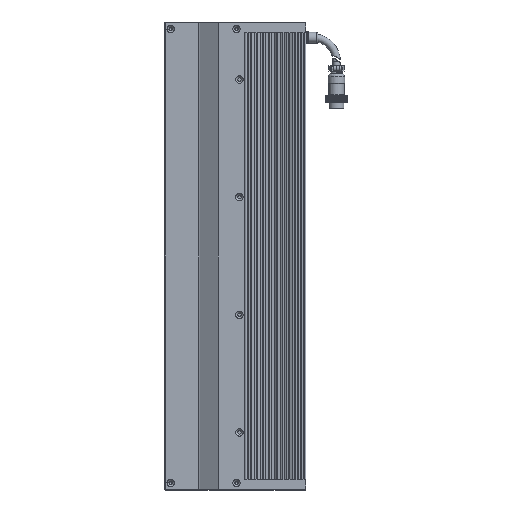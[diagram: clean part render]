
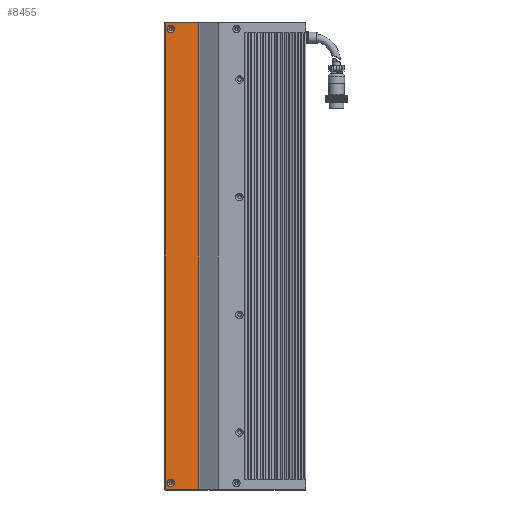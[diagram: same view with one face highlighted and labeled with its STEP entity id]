
A CAD part, left-side view. The second image highlights one B-rep face of the part: STEP entity #8455.
In plain terms, the highlighted planar face has unit normal (-1, 0, 0).
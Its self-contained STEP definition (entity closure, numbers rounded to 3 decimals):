
#137 = CARTESIAN_POINT ( 'NONE',  ( -15.462, -6.987, 120. ) ) ;
#3875 = LINE ( 'NONE', #50298, #115102 ) ;
#4369 = FACE_OUTER_BOUND ( 'NONE', #118161, .T. ) ;
#8295 = VERTEX_POINT ( 'NONE', #48006 ) ;
#8455 = ADVANCED_FACE ( 'NONE', ( #43983, #120213, #4369 ), #99480, .F. ) ;
#9952 = LINE ( 'NONE', #75915, #73999 ) ;
#12774 = ORIENTED_EDGE ( 'NONE', *, *, #44619, .F. ) ;
#12992 = DIRECTION ( 'NONE',  ( 1., 0., 0. ) ) ;
#16645 = EDGE_CURVE ( 'NONE', #105929, #105929, #23523, .T. ) ;
#21371 = CARTESIAN_POINT ( 'NONE',  ( -15.462, 13.789, 511.5 ) ) ;
#22357 = ORIENTED_EDGE ( 'NONE', *, *, #58789, .F. ) ;
#23523 = CIRCLE ( 'NONE', #69515, 3.15 ) ;
#25300 = LINE ( 'NONE', #49025, #80167 ) ;
#26943 = EDGE_LOOP ( 'NONE', ( #74138 ) ) ;
#31786 = DIRECTION ( 'NONE',  ( 0., 0., 1. ) ) ;
#42103 = CARTESIAN_POINT ( 'NONE',  ( -15.462, 21.439, 517. ) ) ;
#42367 = CARTESIAN_POINT ( 'NONE',  ( -15.462, -7.561, 515.5 ) ) ;
#42982 = DIRECTION ( 'NONE',  ( -1., 0., 0. ) ) ;
#43983 = FACE_BOUND ( 'NONE', #65083, .T. ) ;
#44619 = EDGE_CURVE ( 'NONE', #77312, #8295, #25300, .T. ) ;
#45402 = EDGE_CURVE ( 'NONE', #93261, #115894, #3875, .T. ) ;
#48006 = CARTESIAN_POINT ( 'NONE',  ( -15.462, 21.439, 120. ) ) ;
#49025 = CARTESIAN_POINT ( 'NONE',  ( -15.462, -7.561, 120. ) ) ;
#49874 = DIRECTION ( 'NONE',  ( 0., -1., 0. ) ) ;
#50298 = CARTESIAN_POINT ( 'NONE',  ( -15.462, -7.561, 517. ) ) ;
#50896 = DIRECTION ( 'NONE',  ( 0., 0., -1. ) ) ;
#52246 = ORIENTED_EDGE ( 'NONE', *, *, #103715, .F. ) ;
#52407 = CARTESIAN_POINT ( 'NONE',  ( -15.462, 16.939, 128.65 ) ) ;
#52782 = CARTESIAN_POINT ( 'NONE',  ( -15.462, 16.939, 511.5 ) ) ;
#58789 = EDGE_CURVE ( 'NONE', #115894, #77312, #66626, .T. ) ;
#62128 = VECTOR ( 'NONE', #64286, 1000. ) ;
#62609 = DIRECTION ( 'NONE',  ( 0., -1., 0. ) ) ;
#64286 = DIRECTION ( 'NONE',  ( 0., 0., -1. ) ) ;
#65083 = EDGE_LOOP ( 'NONE', ( #52246 ) ) ;
#66626 = LINE ( 'NONE', #74897, #62128 ) ;
#67247 = ORIENTED_EDGE ( 'NONE', *, *, #45402, .F. ) ;
#69515 = AXIS2_PLACEMENT_3D ( 'NONE', #52782, #42982, #62609 ) ;
#70733 = DIRECTION ( 'NONE',  ( 0., 1., 0. ) ) ;
#73284 = AXIS2_PLACEMENT_3D ( 'NONE', #42367, #12992, #50896 ) ;
#73999 = VECTOR ( 'NONE', #75500, 1000. ) ;
#74138 = ORIENTED_EDGE ( 'NONE', *, *, #16645, .F. ) ;
#74897 = CARTESIAN_POINT ( 'NONE',  ( -15.462, -6.987, 515.5 ) ) ;
#75500 = DIRECTION ( 'NONE',  ( 0., 0., 1. ) ) ;
#75915 = CARTESIAN_POINT ( 'NONE',  ( -15.462, 21.439, 515.5 ) ) ;
#77312 = VERTEX_POINT ( 'NONE', #137 ) ;
#80167 = VECTOR ( 'NONE', #70733, 1000. ) ;
#80572 = CARTESIAN_POINT ( 'NONE',  ( -15.462, -6.987, 517. ) ) ;
#80762 = CARTESIAN_POINT ( 'NONE',  ( -15.462, 16.939, 125.5 ) ) ;
#83891 = ORIENTED_EDGE ( 'NONE', *, *, #109490, .F. ) ;
#85576 = CIRCLE ( 'NONE', #105984, 3.15 ) ;
#93261 = VERTEX_POINT ( 'NONE', #42103 ) ;
#99480 = PLANE ( 'NONE',  #73284 ) ;
#100779 = DIRECTION ( 'NONE',  ( -1., 0., 0. ) ) ;
#103715 = EDGE_CURVE ( 'NONE', #113524, #113524, #85576, .T. ) ;
#105929 = VERTEX_POINT ( 'NONE', #21371 ) ;
#105984 = AXIS2_PLACEMENT_3D ( 'NONE', #80762, #100779, #31786 ) ;
#109490 = EDGE_CURVE ( 'NONE', #8295, #93261, #9952, .T. ) ;
#113524 = VERTEX_POINT ( 'NONE', #52407 ) ;
#115102 = VECTOR ( 'NONE', #49874, 1000. ) ;
#115894 = VERTEX_POINT ( 'NONE', #80572 ) ;
#118161 = EDGE_LOOP ( 'NONE', ( #83891, #12774, #22357, #67247 ) ) ;
#120213 = FACE_BOUND ( 'NONE', #26943, .T. ) ;
